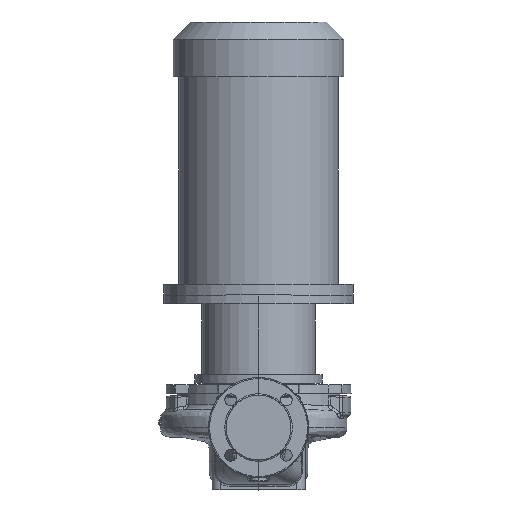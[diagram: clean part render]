
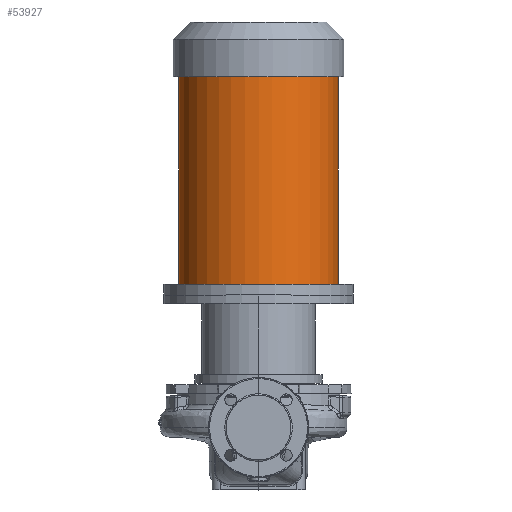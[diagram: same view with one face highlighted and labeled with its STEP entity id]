
A CAD part, top view. The second image highlights one B-rep face of the part: STEP entity #53927.
In plain terms, the highlighted cylindrical face has radius 147.5 mm (diameter 295 mm), a partial arc.
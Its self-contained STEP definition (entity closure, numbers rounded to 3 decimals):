
#238 = CARTESIAN_POINT ( 'NONE',  ( 0., 265.3, 0. ) ) ;
#291 = CARTESIAN_POINT ( 'NONE',  ( 0., 245.3, 0. ) ) ;
#3535 = VERTEX_POINT ( 'NONE', #37982 ) ;
#4016 = EDGE_CURVE ( 'NONE', #3535, #11198, #4312, .T. ) ;
#4312 = CIRCLE ( 'NONE', #52771, 147.5 ) ;
#4721 = DIRECTION ( 'NONE',  ( 0., -1., 0. ) ) ;
#5628 = LINE ( 'NONE', #32537, #36370 ) ;
#6006 = CIRCLE ( 'NONE', #53481, 147.5 ) ;
#9468 = DIRECTION ( 'NONE',  ( 0., -1., 0. ) ) ;
#10406 = EDGE_LOOP ( 'NONE', ( #16621, #41780, #47002, #49664 ) ) ;
#11198 = VERTEX_POINT ( 'NONE', #22180 ) ;
#16163 = VERTEX_POINT ( 'NONE', #19562 ) ;
#16621 = ORIENTED_EDGE ( 'NONE', *, *, #23361, .F. ) ;
#19562 = CARTESIAN_POINT ( 'NONE',  ( 147.5, 649.3, 0. ) ) ;
#21982 = CYLINDRICAL_SURFACE ( 'NONE', #43731, 147.5 ) ;
#22180 = CARTESIAN_POINT ( 'NONE',  ( -147.5, 265.3, 0. ) ) ;
#22187 = EDGE_CURVE ( 'NONE', #16163, #49507, #6006, .T. ) ;
#22730 = CARTESIAN_POINT ( 'NONE',  ( 0., 649.3, 0. ) ) ;
#23361 = EDGE_CURVE ( 'NONE', #16163, #3535, #23396, .T. ) ;
#23396 = LINE ( 'NONE', #29605, #35248 ) ;
#23722 = DIRECTION ( 'NONE',  ( 0., -1., 0. ) ) ;
#26605 = CARTESIAN_POINT ( 'NONE',  ( -147.5, 649.3, 0. ) ) ;
#27189 = DIRECTION ( 'NONE',  ( -1., 0., 0. ) ) ;
#29605 = CARTESIAN_POINT ( 'NONE',  ( 147.5, 245.3, 0. ) ) ;
#32537 = CARTESIAN_POINT ( 'NONE',  ( -147.5, 245.3, 0. ) ) ;
#35248 = VECTOR ( 'NONE', #48378, 1000. ) ;
#35969 = DIRECTION ( 'NONE',  ( -1., 0., 0. ) ) ;
#36370 = VECTOR ( 'NONE', #23722, 1000. ) ;
#37982 = CARTESIAN_POINT ( 'NONE',  ( 147.5, 265.3, 0. ) ) ;
#39047 = EDGE_CURVE ( 'NONE', #49507, #11198, #5628, .T. ) ;
#40536 = DIRECTION ( 'NONE',  ( 0., -1., 0. ) ) ;
#41780 = ORIENTED_EDGE ( 'NONE', *, *, #22187, .T. ) ;
#43731 = AXIS2_PLACEMENT_3D ( 'NONE', #291, #40536, #57950 ) ;
#47002 = ORIENTED_EDGE ( 'NONE', *, *, #39047, .T. ) ;
#48378 = DIRECTION ( 'NONE',  ( 0., -1., 0. ) ) ;
#49507 = VERTEX_POINT ( 'NONE', #26605 ) ;
#49664 = ORIENTED_EDGE ( 'NONE', *, *, #4016, .F. ) ;
#52771 = AXIS2_PLACEMENT_3D ( 'NONE', #238, #4721, #35969 ) ;
#53481 = AXIS2_PLACEMENT_3D ( 'NONE', #22730, #9468, #27189 ) ;
#53927 = ADVANCED_FACE ( 'NONE', ( #56982 ), #21982, .T. ) ;
#56982 = FACE_OUTER_BOUND ( 'NONE', #10406, .T. ) ;
#57950 = DIRECTION ( 'NONE',  ( -1., 0., 0. ) ) ;
